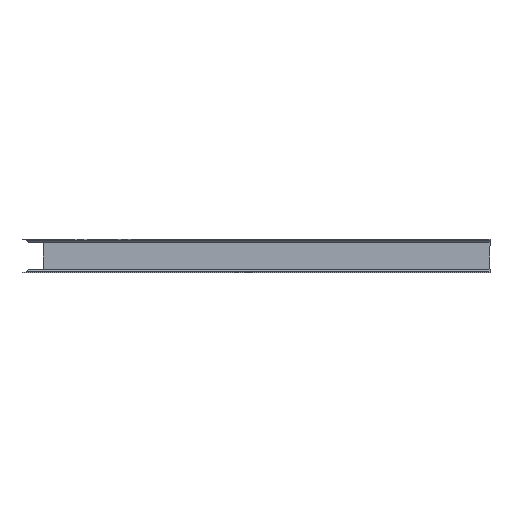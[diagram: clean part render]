
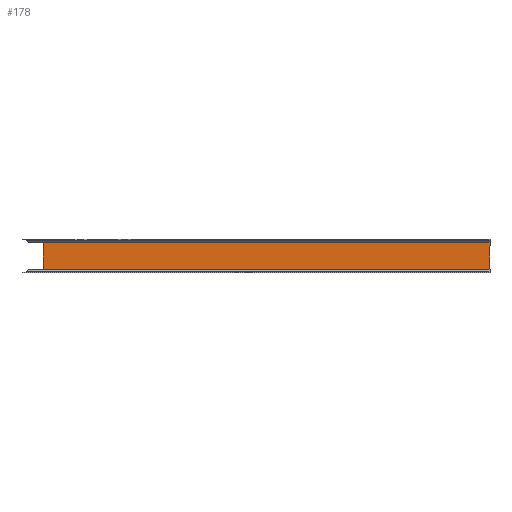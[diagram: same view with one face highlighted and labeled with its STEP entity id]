
A CAD part, front view. The second image highlights one B-rep face of the part: STEP entity #178.
In plain terms, the highlighted planar face has unit normal (0, -1, 0).
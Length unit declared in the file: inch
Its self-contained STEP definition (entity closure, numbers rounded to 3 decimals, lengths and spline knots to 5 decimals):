
#178 = ADVANCED_FACE ( 'NONE', ( #730 ), #1913, .T. ) ;
#281 = VECTOR ( 'NONE', #1257, 39.37008 ) ;
#294 = LINE ( 'NONE', #1341, #295 ) ;
#295 = VECTOR ( 'NONE', #1331, 39.37008 ) ;
#305 = LINE ( 'NONE', #1255, #281 ) ;
#337 = VECTOR ( 'NONE', #1287, 39.37008 ) ;
#349 = LINE ( 'NONE', #1293, #337 ) ;
#353 = LINE ( 'NONE', #1289, #360 ) ;
#360 = VECTOR ( 'NONE', #1304, 39.37008 ) ;
#524 = ORIENTED_EDGE ( 'NONE', *, *, #898, .F. ) ;
#527 = ORIENTED_EDGE ( 'NONE', *, *, #900, .F. ) ;
#539 = ORIENTED_EDGE ( 'NONE', *, *, #849, .T. ) ;
#556 = ORIENTED_EDGE ( 'NONE', *, *, #875, .F. ) ;
#625 = EDGE_LOOP ( 'NONE', ( #524, #539, #556, #527 ) ) ;
#730 = FACE_OUTER_BOUND ( 'NONE', #625, .T. ) ;
#849 = EDGE_CURVE ( 'NONE', #1668, #1693, #305, .T. ) ;
#875 = EDGE_CURVE ( 'NONE', #985, #1693, #294, .T. ) ;
#898 = EDGE_CURVE ( 'NONE', #1668, #1690, #349, .T. ) ;
#900 = EDGE_CURVE ( 'NONE', #1690, #985, #353, .T. ) ;
#931 = AXIS2_PLACEMENT_3D ( 'NONE', #1921, #1961, #1922 ) ;
#985 = VERTEX_POINT ( 'NONE', #1428 ) ;
#1255 = CARTESIAN_POINT ( 'NONE',  ( 1., -0.036, 0. ) ) ;
#1257 = DIRECTION ( 'NONE',  ( 0., 0., -1. ) ) ;
#1287 = DIRECTION ( 'NONE',  ( 1., 0., 0. ) ) ;
#1289 = CARTESIAN_POINT ( 'NONE',  ( 22., -0.036, 0. ) ) ;
#1293 = CARTESIAN_POINT ( 'NONE',  ( 0., -0.036, -0.029 ) ) ;
#1304 = DIRECTION ( 'NONE',  ( 0., 0., -1. ) ) ;
#1331 = DIRECTION ( 'NONE',  ( -1., 0., 0. ) ) ;
#1341 = CARTESIAN_POINT ( 'NONE',  ( 22., -0.036, -1.461 ) ) ;
#1428 = CARTESIAN_POINT ( 'NONE',  ( 22., -0.036, -1.461 ) ) ;
#1475 = CARTESIAN_POINT ( 'NONE',  ( 1., -0.036, -0.029 ) ) ;
#1501 = CARTESIAN_POINT ( 'NONE',  ( 1., -0.036, -1.461 ) ) ;
#1524 = CARTESIAN_POINT ( 'NONE',  ( 22., -0.036, -0.029 ) ) ;
#1668 = VERTEX_POINT ( 'NONE', #1475 ) ;
#1690 = VERTEX_POINT ( 'NONE', #1524 ) ;
#1693 = VERTEX_POINT ( 'NONE', #1501 ) ;
#1913 = PLANE ( 'NONE',  #931 ) ;
#1921 = CARTESIAN_POINT ( 'NONE',  ( 0., -0.036, 0. ) ) ;
#1922 = DIRECTION ( 'NONE',  ( 0., 0., -1. ) ) ;
#1961 = DIRECTION ( 'NONE',  ( 0., -1., 0. ) ) ;
